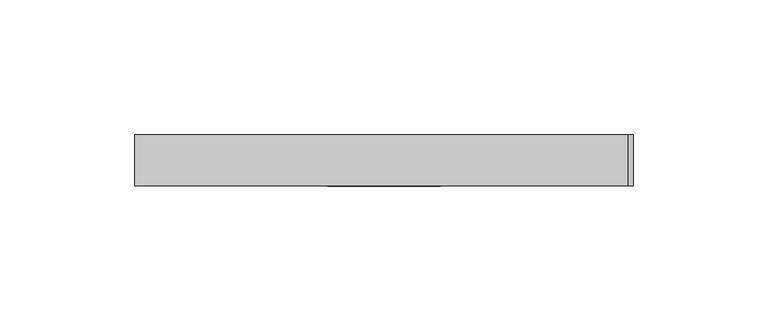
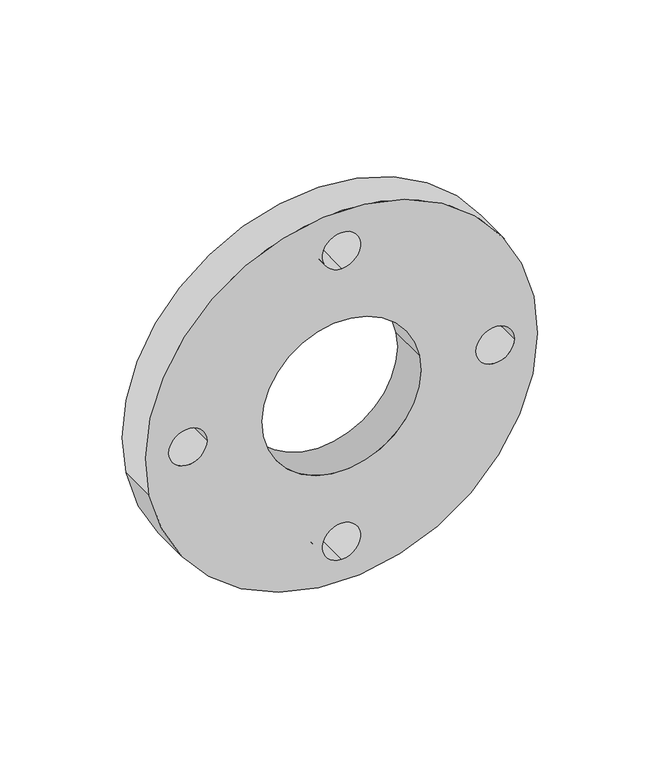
"""IFC4 building model written with IfcOpenShell, lengths in millimetres: pipe fitting geometry, 01051019 : Brides libres."""

from ifc_helpers import new_model, si_unit, point, frame, frame_2d, origin, origin_2d, place, context, project, spatial, circle_curve, trimmed, segment, composite_curve, outline, extrude, source, transform, mapped, element, save


def pipe_fitting_578b3eaf(model_context):
    return source(origin(), model_context, "Body", "SweptSolid", [
        extrude(outline(composite_curve([segment(trimmed(circle_curve(origin_2d(), 92.5), [point((-18.0458548, -90.7226384))], [point((18.0458548, 90.7226384))], False, "CARTESIAN"), True, "CONTINUOUS"), segment(trimmed(circle_curve(origin_2d(), 92.5), [point((18.0458548, 90.7226384))], [point((-18.0458548, -90.7226384))], False, "CARTESIAN"), True, "CONTINUOUS")], self_intersect=False), holes=[composite_curve([segment(trimmed(circle_curve(origin_2d(), 37.5), [point((-7.3158871, -36.779448))], [point((7.3158871, 36.779448))], True, "CARTESIAN"), True, "CONTINUOUS"), segment(trimmed(circle_curve(origin_2d(), 37.5), [point((7.3158871, 36.779448))], [point((-7.3158871, -36.779448))], True, "CARTESIAN"), True, "CONTINUOUS")], self_intersect=False), composite_curve([segment(trimmed(circle_curve(frame_2d((0.0, -72.5)), 9.0), [point((0.0, -63.5))], [point((0.0, -81.5))], True, "CARTESIAN"), True, "CONTINUOUS"), segment(trimmed(circle_curve(frame_2d((0.0, -72.5)), 9.0), [point((0.0, -81.5))], [point((0.0, -63.5))], True, "CARTESIAN"), True, "CONTINUOUS")], self_intersect=False), composite_curve([segment(trimmed(circle_curve(frame_2d((72.5, 0.0)), 9.0), [point((63.5, 0.0))], [point((81.5, 0.0))], True, "CARTESIAN"), True, "CONTINUOUS"), segment(trimmed(circle_curve(frame_2d((72.5, 0.0)), 9.0), [point((81.5, 0.0))], [point((63.5, 0.0))], True, "CARTESIAN"), True, "CONTINUOUS")], self_intersect=False), composite_curve([segment(trimmed(circle_curve(frame_2d((-72.5, 0.0)), 9.0), [point((-63.5, 0.0))], [point((-81.5, 0.0))], True, "CARTESIAN"), True, "CONTINUOUS"), segment(trimmed(circle_curve(frame_2d((-72.5, 0.0)), 9.0), [point((-81.5, 0.0))], [point((-63.5, 0.0))], True, "CARTESIAN"), True, "CONTINUOUS")], self_intersect=False), composite_curve([segment(trimmed(circle_curve(frame_2d((0.0, 72.5)), 9.0), [point((0.0, 63.5))], [point((0.0, 81.5))], True, "CARTESIAN"), True, "CONTINUOUS"), segment(trimmed(circle_curve(frame_2d((0.0, 72.5)), 9.0), [point((0.0, 81.5))], [point((0.0, 63.5))], True, "CARTESIAN"), True, "CONTINUOUS")], self_intersect=False)]), frame((0.0, -9.5, 0.0), z_axis=(0.0, 1.0, 0.0), x_axis=(0.0, 0.0, 1.0)), (0.0, 0.0, 1.0), 19.0),
    ])


if __name__ == "__main__":
    model = new_model("IFC4")
    model_context = context("Model", 3, world=origin())
    ifc_project = project(units=[si_unit("LENGTHUNIT", "METRE", prefix="MILLI")], contexts=[model_context])
    site = spatial("IfcSite", under=ifc_project)
    building = spatial("IfcBuilding", under=site)
    placement = place(None, origin())
    pipe_fitting_shape = pipe_fitting_578b3eaf(model_context)
    element("IfcPipeFitting", 1, ObjectType="01051019 : Brides libres", at=placement, inside=building, context=model_context, shape_type="MappedRepresentation", body=[
        mapped(pipe_fitting_shape, transform((0.0, 0.0, 0.0), x_axis=(1.0, 0.0, 0.0), y_axis=(0.0, 1.0, 0.0), z_axis=(0.0, 0.0, 1.0))),
    ])
    save(model, "model.ifc")
